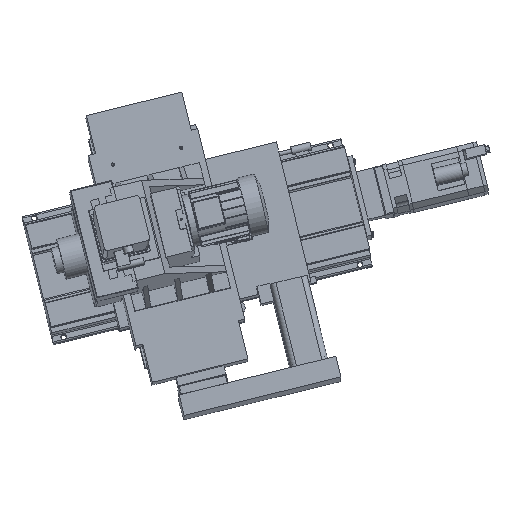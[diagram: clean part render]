
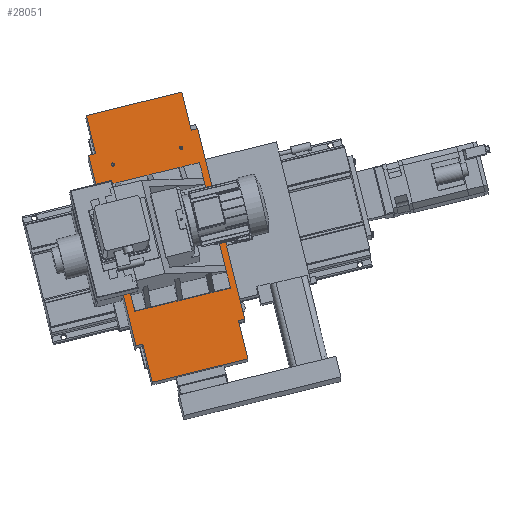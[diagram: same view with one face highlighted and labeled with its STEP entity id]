
A CAD part, top view. The second image highlights one B-rep face of the part: STEP entity #28051.
In plain terms, the highlighted planar face has unit normal (0.013, 0.084, 0.996).
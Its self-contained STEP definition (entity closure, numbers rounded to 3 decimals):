
#4037=CARTESIAN_POINT('',(-285.272,257.996,849.815));
#4038=VERTEX_POINT('',#4037);
#4045=CARTESIAN_POINT('',(-190.94,-123.282,880.879));
#4046=VERTEX_POINT('',#4045);
#4047=CARTESIAN_POINT('',(-190.94,-123.282,880.879));
#4048=DIRECTION('',(-0.239,0.968,-0.079));
#4049=VECTOR('',#4048,394.);
#4050=LINE('',#4047,#4049);
#4051=EDGE_CURVE('',#4046,#4038,#4050,.T.);
#4630=CARTESIAN_POINT('',(5.977,329.256,840.029));
#4631=VERTEX_POINT('',#4630);
#4632=CARTESIAN_POINT('',(-285.272,257.996,849.815));
#4633=DIRECTION('',(0.971,0.238,-0.033));
#4634=VECTOR('',#4633,300.0);
#4635=LINE('',#4632,#4634);
#4636=EDGE_CURVE('',#4038,#4631,#4635,.T.);
#4704=CARTESIAN_POINT('',(100.309,-52.021,871.094));
#4705=VERTEX_POINT('',#4704);
#4706=CARTESIAN_POINT('',(100.309,-52.021,871.094));
#4707=DIRECTION('',(-0.971,-0.238,0.033));
#4708=VECTOR('',#4707,300.0);
#4709=LINE('',#4706,#4708);
#4710=EDGE_CURVE('',#4705,#4046,#4709,.T.);
#4795=CARTESIAN_POINT('',(5.977,329.256,840.029));
#4796=DIRECTION('',(0.239,-0.968,0.079));
#4797=VECTOR('',#4796,394.0);
#4798=LINE('',#4795,#4797);
#4799=EDGE_CURVE('',#4631,#4705,#4798,.T.);
#15017=CARTESIAN_POINT('',(153.7,-267.82,888.677));
#15018=VERTEX_POINT('',#15017);
#15025=CARTESIAN_POINT('',(-137.55,-339.081,898.462));
#15026=VERTEX_POINT('',#15025);
#15027=CARTESIAN_POINT('',(-137.55,-339.081,898.462));
#15028=DIRECTION('',(0.971,0.238,-0.033));
#15029=VECTOR('',#15028,300.0);
#15030=LINE('',#15027,#15029);
#15031=EDGE_CURVE('',#15026,#15018,#15030,.T.);
#15062=CARTESIAN_POINT('',(124.969,-151.695,879.215));
#15063=VERTEX_POINT('',#15062);
#15080=CARTESIAN_POINT('',(144.386,-146.944,878.563));
#15081=VERTEX_POINT('',#15080);
#15088=CARTESIAN_POINT('',(124.969,-151.695,879.215));
#15089=DIRECTION('',(0.971,0.238,-0.033));
#15090=VECTOR('',#15089,20.);
#15091=LINE('',#15088,#15090);
#15092=EDGE_CURVE('',#15063,#15081,#15091,.T.);
#15220=CARTESIAN_POINT('',(-166.28,-222.956,889.));
#15221=VERTEX_POINT('',#15220);
#15228=CARTESIAN_POINT('',(-187.638,-228.181,889.718));
#15229=VERTEX_POINT('',#15228);
#15230=CARTESIAN_POINT('',(-187.638,-228.181,889.718));
#15231=DIRECTION('',(0.971,0.238,-0.033));
#15232=VECTOR('',#15231,22.);
#15233=LINE('',#15230,#15232);
#15234=EDGE_CURVE('',#15229,#15221,#15233,.T.);
#15641=CARTESIAN_POINT('',(-338.663,473.795,832.232));
#15642=VERTEX_POINT('',#15641);
#15643=CARTESIAN_POINT('',(-47.413,545.056,822.447));
#15644=VERTEX_POINT('',#15643);
#15645=CARTESIAN_POINT('',(-338.663,473.795,832.232));
#15646=DIRECTION('',(0.971,0.238,-0.033));
#15647=VECTOR('',#15646,300.0);
#15648=LINE('',#15645,#15647);
#15649=EDGE_CURVE('',#15642,#15644,#15648,.T.);
#15672=CARTESIAN_POINT('',(-309.932,357.67,841.694));
#15673=VERTEX_POINT('',#15672);
#15706=CARTESIAN_POINT('',(-331.291,352.444,842.411));
#15707=VERTEX_POINT('',#15706);
#15714=CARTESIAN_POINT('',(-309.932,357.67,841.694));
#15715=DIRECTION('',(-0.971,-0.238,0.033));
#15716=VECTOR('',#15715,22.);
#15717=LINE('',#15714,#15716);
#15718=EDGE_CURVE('',#15673,#15707,#15717,.T.);
#15730=CARTESIAN_POINT('',(-18.683,428.931,831.908));
#15731=VERTEX_POINT('',#15730);
#15738=CARTESIAN_POINT('',(0.734,433.681,831.256));
#15739=VERTEX_POINT('',#15738);
#15740=CARTESIAN_POINT('',(0.734,433.681,831.256));
#15741=DIRECTION('',(-0.971,-0.238,0.033));
#15742=VECTOR('',#15741,20.);
#15743=LINE('',#15740,#15742);
#15744=EDGE_CURVE('',#15739,#15731,#15743,.T.);
#15813=CARTESIAN_POINT('',(-331.291,352.444,842.411));
#15814=DIRECTION('',(0.239,-0.968,0.079));
#15815=VECTOR('',#15814,600.0);
#15816=LINE('',#15813,#15815);
#15817=EDGE_CURVE('',#15707,#15229,#15816,.T.);
#17033=CARTESIAN_POINT('',(-309.932,357.67,841.694));
#17034=DIRECTION('',(-0.239,0.968,-0.079));
#17035=VECTOR('',#17034,120.);
#17036=LINE('',#17033,#17035);
#17037=EDGE_CURVE('',#15673,#15642,#17036,.T.);
#17051=CARTESIAN_POINT('',(-166.28,-222.956,889.));
#17052=DIRECTION('',(0.239,-0.968,0.079));
#17053=VECTOR('',#17052,120.);
#17054=LINE('',#17051,#17053);
#17055=EDGE_CURVE('',#15221,#15026,#17054,.T.);
#17240=CARTESIAN_POINT('',(0.734,433.681,831.256));
#17241=DIRECTION('',(0.239,-0.968,0.079));
#17242=VECTOR('',#17241,600.0);
#17243=LINE('',#17240,#17242);
#17244=EDGE_CURVE('',#15739,#15081,#17243,.T.);
#27916=CARTESIAN_POINT('',(-252.992,325.419,843.691));
#27917=VERTEX_POINT('',#27916);
#27918=CARTESIAN_POINT('',(-257.898,324.218,843.855));
#27919=DIRECTION('',(-0.013,-0.084,-0.996));
#27920=DIRECTION('',(0.971,0.238,-0.033));
#27921=AXIS2_PLACEMENT_3D('',#27918,#27919,#27920);
#27922=CIRCLE('',#27921,5.053);
#27923=EDGE_CURVE('',#27917,#27917,#27922,.T.);
#27995=CARTESIAN_POINT('',(-44.264,376.489,836.678));
#27996=VERTEX_POINT('',#27995);
#27997=CARTESIAN_POINT('',(-49.169,375.288,836.843));
#27998=DIRECTION('',(-0.013,-0.084,-0.996));
#27999=DIRECTION('',(0.971,0.238,-0.033));
#28000=AXIS2_PLACEMENT_3D('',#27997,#27998,#27999);
#28001=CIRCLE('',#28000,5.053);
#28002=EDGE_CURVE('',#27996,#27996,#28001,.T.);
#28010=CARTESIAN_POINT('',(-309.932,357.67,841.694));
#28011=DIRECTION('',(0.013,0.084,0.996));
#28012=DIRECTION('',(0.239,-0.968,0.079));
#28013=AXIS2_PLACEMENT_3D('',#28010,#28011,#28012);
#28014=PLANE('',#28013);
#28015=ORIENTED_EDGE('',*,*,#15234,.T.);
#28016=ORIENTED_EDGE('',*,*,#17055,.T.);
#28017=ORIENTED_EDGE('',*,*,#15031,.T.);
#28018=CARTESIAN_POINT('',(153.7,-267.82,888.677));
#28019=DIRECTION('',(-0.239,0.968,-0.079));
#28020=VECTOR('',#28019,120.);
#28021=LINE('',#28018,#28020);
#28022=EDGE_CURVE('',#15018,#15063,#28021,.T.);
#28023=ORIENTED_EDGE('',*,*,#28022,.T.);
#28024=ORIENTED_EDGE('',*,*,#15092,.T.);
#28025=ORIENTED_EDGE('',*,*,#17244,.F.);
#28026=ORIENTED_EDGE('',*,*,#15744,.T.);
#28027=CARTESIAN_POINT('',(-47.413,545.056,822.447));
#28028=DIRECTION('',(0.239,-0.968,0.079));
#28029=VECTOR('',#28028,120.);
#28030=LINE('',#28027,#28029);
#28031=EDGE_CURVE('',#15644,#15731,#28030,.T.);
#28032=ORIENTED_EDGE('',*,*,#28031,.F.);
#28033=ORIENTED_EDGE('',*,*,#15649,.F.);
#28034=ORIENTED_EDGE('',*,*,#17037,.F.);
#28035=ORIENTED_EDGE('',*,*,#15718,.T.);
#28036=ORIENTED_EDGE('',*,*,#15817,.T.);
#28037=EDGE_LOOP('',(#28015,#28016,#28017,#28023,#28024,#28025,#28026,#28032,#28033,#28034,#28035,#28036));
#28038=FACE_OUTER_BOUND('',#28037,.T.);
#28039=ORIENTED_EDGE('',*,*,#4051,.T.);
#28040=ORIENTED_EDGE('',*,*,#4636,.T.);
#28041=ORIENTED_EDGE('',*,*,#4799,.T.);
#28042=ORIENTED_EDGE('',*,*,#4710,.T.);
#28043=EDGE_LOOP('',(#28039,#28040,#28041,#28042));
#28044=FACE_BOUND('',#28043,.T.);
#28045=ORIENTED_EDGE('',*,*,#27923,.T.);
#28046=EDGE_LOOP('',(#28045));
#28047=FACE_BOUND('',#28046,.T.);
#28048=ORIENTED_EDGE('',*,*,#28002,.T.);
#28049=EDGE_LOOP('',(#28048));
#28050=FACE_BOUND('',#28049,.T.);
#28051=ADVANCED_FACE('',(#28038,#28044,#28047,#28050),#28014,.T.);
